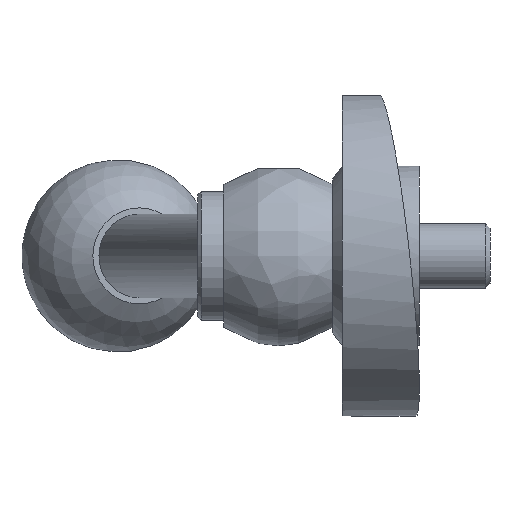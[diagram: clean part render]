
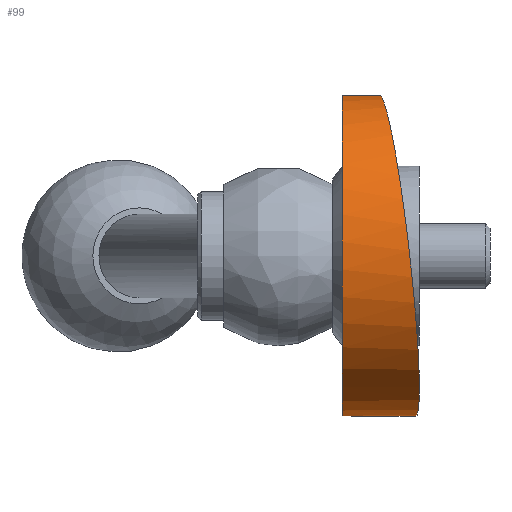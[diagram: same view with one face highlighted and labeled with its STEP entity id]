
A CAD part, left-side view. The second image highlights one B-rep face of the part: STEP entity #99.
In plain terms, the highlighted cylindrical face has radius 25 mm (diameter 50 mm), a partial arc.
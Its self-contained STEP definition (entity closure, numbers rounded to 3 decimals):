
#99 = ADVANCED_FACE( '', ( #171 ), #172, .T. );
#171 = FACE_OUTER_BOUND( '', #288, .T. );
#172 = CYLINDRICAL_SURFACE( '', #289, 25. );
#288 = EDGE_LOOP( '', ( #463, #464, #465, #466 ) );
#289 = AXIS2_PLACEMENT_3D( '', #467, #468, #469 );
#463 = ORIENTED_EDGE( '', *, *, #566, .F. );
#464 = ORIENTED_EDGE( '', *, *, #536, .F. );
#465 = ORIENTED_EDGE( '', *, *, #567, .F. );
#466 = ORIENTED_EDGE( '', *, *, #533, .T. );
#467 = CARTESIAN_POINT( '', ( 0., 12., 0. ) );
#468 = DIRECTION( '', ( 0., 1., 0. ) );
#469 = DIRECTION( '', ( 0., 0., -1. ) );
#533 = EDGE_CURVE( '', #605, #603, #606, .T. );
#536 = EDGE_CURVE( '', #609, #601, #611, .T. );
#566 = EDGE_CURVE( '', #601, #603, #657, .T. );
#567 = EDGE_CURVE( '', #605, #609, #658, .T. );
#601 = VERTEX_POINT( '', #780 );
#603 = VERTEX_POINT( '', #783 );
#605 = VERTEX_POINT( '', #786 );
#606 = LINE( '', #787, #788 );
#609 = VERTEX_POINT( '', #792 );
#611 = LINE( '', #795, #796 );
#657 = ELLIPSE( '', #861, 25.228, 25. );
#658 = CIRCLE( '', #862, 25. );
#780 = CARTESIAN_POINT( '', ( 14., 6.766, 20.712 ) );
#783 = CARTESIAN_POINT( '', ( 14., 2.119, -20.712 ) );
#786 = CARTESIAN_POINT( '', ( 14., 12., -20.712 ) );
#787 = CARTESIAN_POINT( '', ( 14., 12., -20.712 ) );
#788 = VECTOR( '', #901, 1000. );
#792 = CARTESIAN_POINT( '', ( 14., 12., 20.712 ) );
#795 = CARTESIAN_POINT( '', ( 14., 12., 20.712 ) );
#796 = VECTOR( '', #904, 1000. );
#861 = AXIS2_PLACEMENT_3D( '', #954, #955, #956 );
#862 = AXIS2_PLACEMENT_3D( '', #957, #958, #959 );
#901 = DIRECTION( '', ( 0., -1., 0. ) );
#904 = DIRECTION( '', ( 0., -1., 0. ) );
#954 = CARTESIAN_POINT( '', ( 0., 3.383, 0. ) );
#955 = DIRECTION( '', ( 0.075, -0.991, 0.111 ) );
#956 = DIRECTION( '', ( -0.554, -0.134, -0.822 ) );
#957 = CARTESIAN_POINT( '', ( 0., 12., 0. ) );
#958 = DIRECTION( '', ( 0., 1., 0. ) );
#959 = DIRECTION( '', ( 1., 0., 0. ) );
